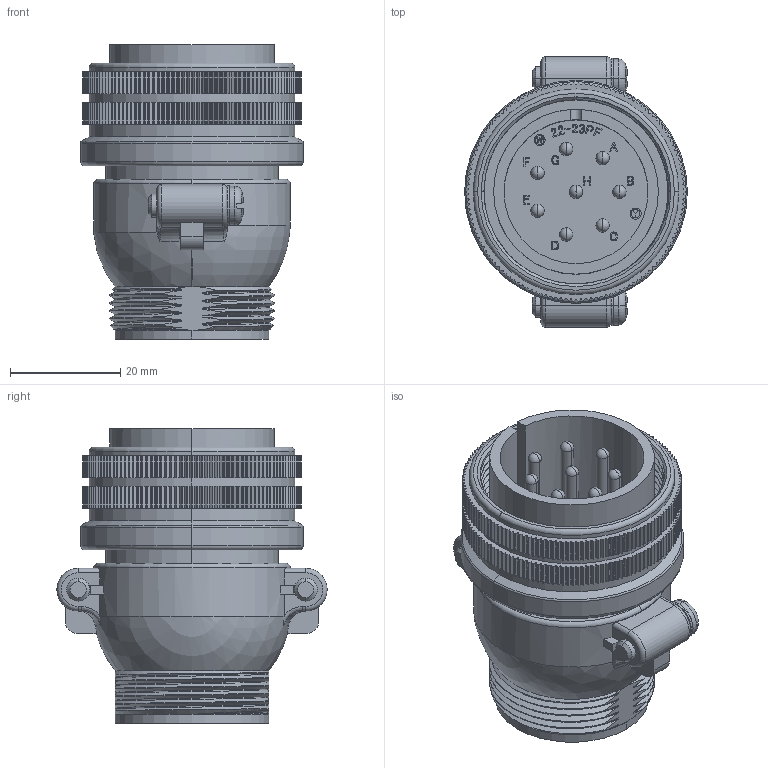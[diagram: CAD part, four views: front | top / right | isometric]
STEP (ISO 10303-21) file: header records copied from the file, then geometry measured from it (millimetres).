
FILE_DESCRIPTION (( 'STEP AP203' ), '1' );
FILE_NAME ('DMS3106B22-23P.STEP', '2017-10-31T00:43:23', ( '' ), ( '' ), 'SwSTEP 2.0', 'SolidWorks 2015', '' );
FILE_SCHEMA (( 'CONFIG_CONTROL_DESIGN' ));
Products named in the file (1): DMS3106B22-23P
Bounding box: 40.43 x 49.02 x 53.38 mm (x, y, z)
Volume: 27257.5 mm3; surface area: 23905.3 mm2
Topology: 1 solids, 1 shells, 2887 faces, 8283 edges, 5485 vertices
Faces by surface type: cylinder 1438, plane 1067, bspline 317, torus 37, cone 21, sphere 7
Entity records: 113198 total; most frequent: CARTESIAN_POINT 37424, ORIENTED_EDGE 16566, DIRECTION 15520, EDGE_CURVE 8283, AXIS2_PLACEMENT_3D 5498, VERTEX_POINT 5485, LINE 4524, VECTOR 4524
